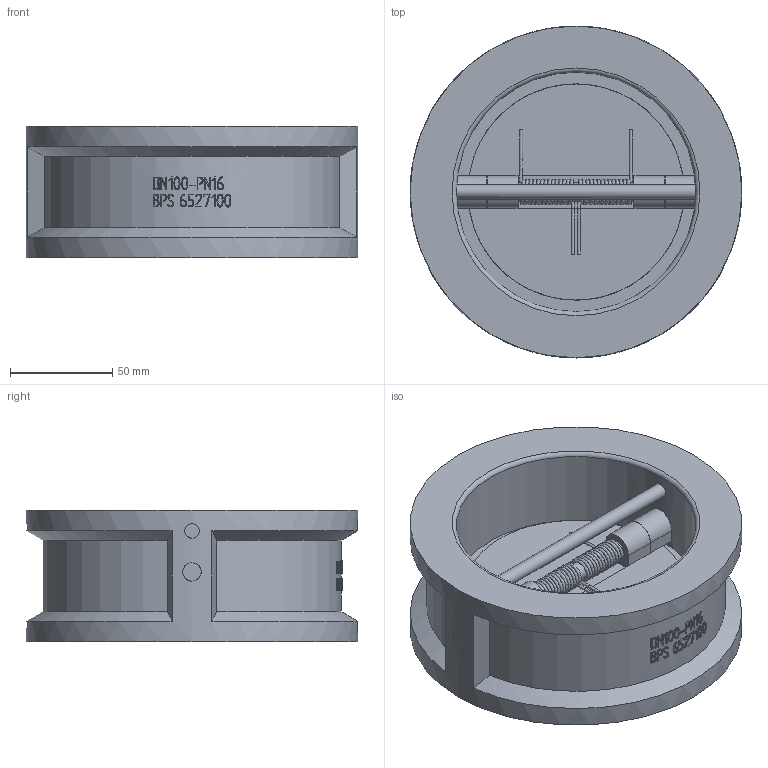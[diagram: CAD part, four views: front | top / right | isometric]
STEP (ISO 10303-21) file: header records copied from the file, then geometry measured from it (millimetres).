
FILE_DESCRIPTION( ( 'Unknown' ), '1' );
FILE_NAME( 'C:/Documents and Settings/Klaus/My Documents/Rootsi BPS 3D, Klaus/BPS 6527 double-door swing check valve/STEP/BPS6527100 double door swing check valve DN100.stp', 'Unknown', ( 'Unknown' ), ( 'Unknown' ), 'PSStep 10.1', 'Unknown', ' ' );
FILE_SCHEMA( ( 'AUTOMOTIVE_DESIGN { 1 0 10303 214 1 1 1 1 }' ) );
Length unit declared in the file: millimetre
Products named in the file (3): 1; 2; 3
Bounding box: 162 x 162 x 64 mm (x, y, z)
Volume: 720821.5 mm3; surface area: 108609.4 mm2
Topology: 3 solids, 3 shells, 263 faces, 618 edges, 398 vertices
Faces by surface type: plane 109, bspline 91, cylinder 54, cone 6, torus 3
Full cylindrical faces by diameter (mm): 7 x1, 9 x3, 105.6 x1, 117 x1, 162 x1
Entity records: 21904 total; most frequent: CARTESIAN_POINT 14969, ORIENTED_EDGE 1156, EDGE_CURVE 578, DIRECTION 566, B_SPLINE_CURVE_WITH_KNOTS 428, VERTEX_POINT 390, EDGE_LOOP 344, FACE_OUTER_BOUND 293
